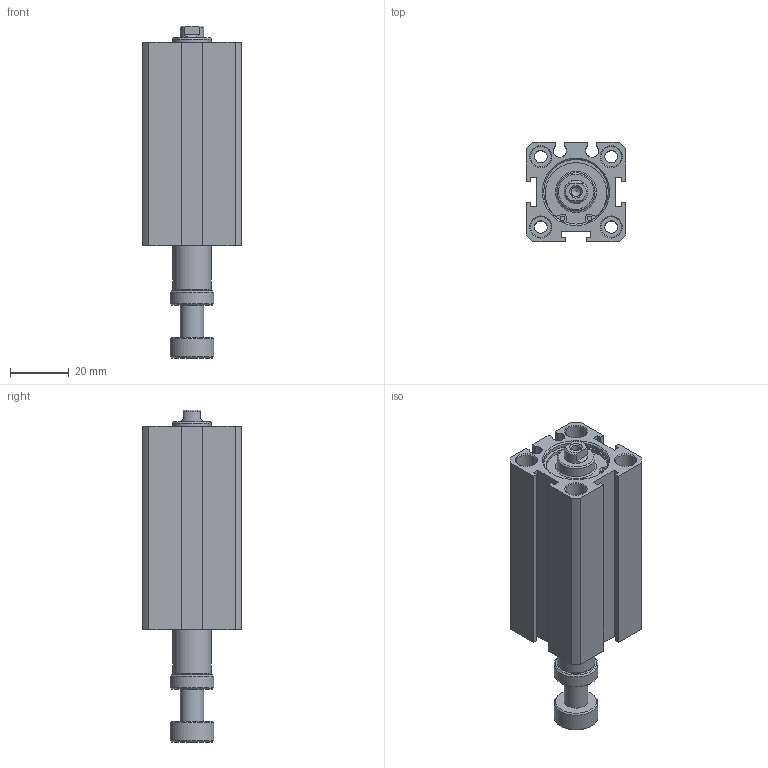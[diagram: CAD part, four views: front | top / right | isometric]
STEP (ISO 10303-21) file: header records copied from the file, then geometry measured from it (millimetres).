
FILE_DESCRIPTION((''),'2;1');
FILE_NAME('I:\3D電子目錄\氣缸\JDAR\JDAR-S\JDAR20-S\JDAR20x40-S.stp','2007-05-05T08:44:40',('662F206'),(''),'Autodesk Inventor 11','Autodesk Inventor 11','');
FILE_SCHEMA(('AUTOMOTIVE_DESIGN { 1 0 10303 214 1 1 1 1 }'));
Length unit declared in the file: millimetre
Products named in the file (3): JDAR20-S; JDAR20; R 形環 23
Assembly tree (3 placements, depth 2):
  JDAR20-S
    JDAR20
    R 形環 23  x2
Bounding box: 34 x 34 x 113.3 mm (x, y, z)
Volume: 69150.5 mm3; surface area: 22986.1 mm2
Topology: 3 solids, 3 shells, 148 faces, 336 edges, 218 vertices
Faces by surface type: plane 70, cylinder 49, cone 19, bspline 8, torus 2
Full cylindrical faces by diameter (mm): 1.5 x6, 4.3 x4, 7 x8, 8 x1, 13 x2, 15 x2, 22 x4, 23.2 x2
Entity records: 3721 total; most frequent: CARTESIAN_POINT 750, DIRECTION 626, ORIENTED_EDGE 494, AXIS2_PLACEMENT_3D 249, EDGE_CURVE 247, EDGE_LOOP 224, VERTEX_POINT 191, FACE_OUTER_BOUND 136
